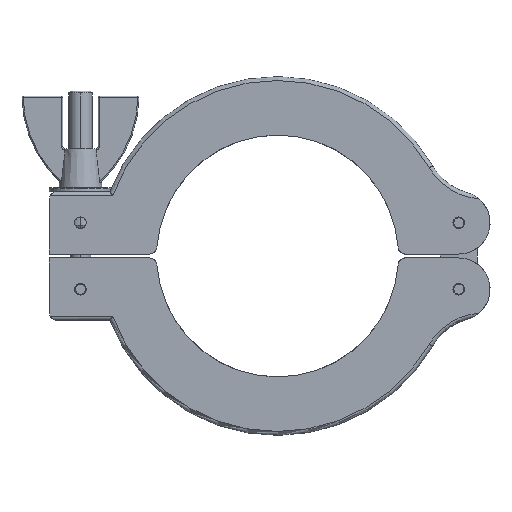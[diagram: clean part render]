
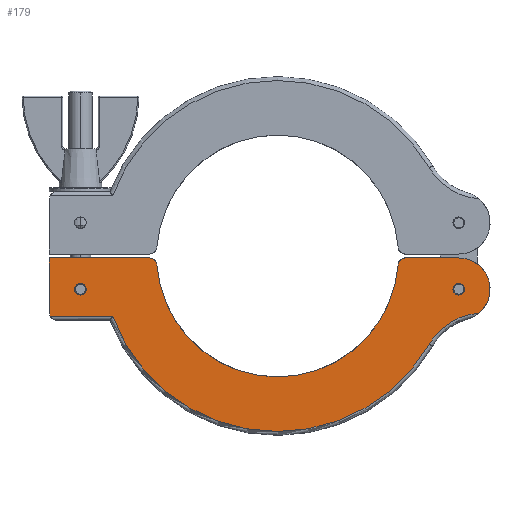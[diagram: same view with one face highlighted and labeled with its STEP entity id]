
A CAD part, front view. The second image highlights one B-rep face of the part: STEP entity #179.
In plain terms, the highlighted planar face has unit normal (0, -1, 0).
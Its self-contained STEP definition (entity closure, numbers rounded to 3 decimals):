
#179=ADVANCED_FACE('18345-2016-03-02_SW0003',(#419,#386,#387),#3535,.T.);
#386=FACE_BOUND('',#3306,.T.);
#387=FACE_BOUND('',#3307,.T.);
#419=FACE_OUTER_BOUND('',#3305,.T.);
#638=B_SPLINE_CURVE_WITH_KNOTS('',3,(#3868,#3869,#3870,#3871,#3872,#3863),
 .UNSPECIFIED.,.F.,.U.,(4,1,1,4),(0.,0.333,0.667,1.),
 .UNSPECIFIED.);
#769=VECTOR('',#9087,13.595);
#770=VECTOR('',#9089,14.);
#771=VECTOR('',#9084,15.986);
#948=LINE('',#3879,#769);
#949=LINE('',#3863,#770);
#950=LINE('',#3888,#771);
#1179=ORIENTED_EDGE('',*,*,#2238,.F.);
#1180=ORIENTED_EDGE('',*,*,#2239,.F.);
#1181=ORIENTED_EDGE('',*,*,#2240,.T.);
#1182=ORIENTED_EDGE('',*,*,#2241,.T.);
#1183=ORIENTED_EDGE('',*,*,#2242,.F.);
#1184=ORIENTED_EDGE('',*,*,#2243,.F.);
#1185=ORIENTED_EDGE('',*,*,#2244,.F.);
#1186=ORIENTED_EDGE('',*,*,#2237,.T.);
#1187=ORIENTED_EDGE('',*,*,#2245,.T.);
#1188=ORIENTED_EDGE('',*,*,#2246,.T.);
#1189=ORIENTED_EDGE('',*,*,#2247,.T.);
#1190=ORIENTED_EDGE('',*,*,#2248,.F.);
#1191=ORIENTED_EDGE('',*,*,#2249,.F.);
#1192=ORIENTED_EDGE('',*,*,#2250,.F.);
#1193=ORIENTED_EDGE('',*,*,#2251,.F.);
#2237=EDGE_CURVE('50',#2985,#2995,#638,.T.);
#2238=EDGE_CURVE('51',#2996,#2997,#2746,.T.);
#2239=EDGE_CURVE('52',#2998,#2996,#2747,.T.);
#2240=EDGE_CURVE('53',#2998,#2999,#2748,.T.);
#2241=EDGE_CURVE('54',#2999,#3000,#948,.T.);
#2242=EDGE_CURVE('55',#3001,#3000,#2749,.T.);
#2243=EDGE_CURVE('56',#3002,#3001,#2750,.T.);
#2244=EDGE_CURVE('57',#2985,#3002,#2751,.T.);
#2245=EDGE_CURVE('58',#2995,#3003,#949,.T.);
#2246=EDGE_CURVE('59',#3003,#3004,#2752,.T.);
#2247=EDGE_CURVE('60',#3004,#2997,#950,.T.);
#2248=EDGE_CURVE('61',#3005,#3006,#2753,.T.);
#2249=EDGE_CURVE('62',#3006,#3005,#2754,.T.);
#2250=EDGE_CURVE('63',#3007,#3008,#2755,.T.);
#2251=EDGE_CURVE('64',#3008,#3007,#2756,.T.);
#2746=CIRCLE('',#8690,45.);
#2747=CIRCLE('',#8691,16.);
#2748=CIRCLE('',#8692,8.);
#2749=CIRCLE('',#8693,2.);
#2750=CIRCLE('',#8694,31.);
#2751=CIRCLE('',#8695,2.);
#2752=CIRCLE('',#8696,2.);
#2753=CIRCLE('',#8697,1.5);
#2754=CIRCLE('',#8698,1.5);
#2755=CIRCLE('',#8699,1.5);
#2756=CIRCLE('',#8700,1.5);
#2985=VERTEX_POINT('31',#3798);
#2995=VERTEX_POINT('41',#3863);
#2996=VERTEX_POINT('42',#3874);
#2997=VERTEX_POINT('43',#3875);
#2998=VERTEX_POINT('44',#3877);
#2999=VERTEX_POINT('45',#3879);
#3000=VERTEX_POINT('46',#3881);
#3001=VERTEX_POINT('47',#3882);
#3002=VERTEX_POINT('48',#3884);
#3003=VERTEX_POINT('49',#3887);
#3004=VERTEX_POINT('50',#3888);
#3005=VERTEX_POINT('51',#3890);
#3006=VERTEX_POINT('52',#3891);
#3007=VERTEX_POINT('53',#3893);
#3008=VERTEX_POINT('54',#3894);
#3305=EDGE_LOOP('',(#1179,#1180,#1181,#1182,#1183,#1184,#1185,#1186,#1187,
#1188,#1189));
#3306=EDGE_LOOP('',(#1190,#1191));
#3307=EDGE_LOOP('',(#1192,#1193));
#3535=PLANE('',#8689);
#3798=CARTESIAN_POINT('',(-32.905,-10.,-0.5));
#3863=CARTESIAN_POINT('',(-58.5,-10.,-0.5));
#3868=CARTESIAN_POINT('',(-32.905,-10.,-0.5));
#3869=CARTESIAN_POINT('',(-35.749,-10.,-0.5));
#3870=CARTESIAN_POINT('',(-41.437,-10.,-0.5));
#3871=CARTESIAN_POINT('',(-49.968,-10.,-0.5));
#3872=CARTESIAN_POINT('',(-55.656,-10.,-0.5));
#3873=CARTESIAN_POINT('',(-59.,-10.,-47.82));
#3874=CARTESIAN_POINT('',(38.914,-10.,-22.599));
#3875=CARTESIAN_POINT('',(-42.246,-10.,-15.5));
#3876=CARTESIAN_POINT('',(0.,-10.,0.));
#3877=CARTESIAN_POINT('',(51.584,-10.,-14.677));
#3878=CARTESIAN_POINT('',(52.75,-10.,-30.635));
#3879=CARTESIAN_POINT('',(46.5,-10.,-0.5));
#3880=CARTESIAN_POINT('',(46.5,-10.,-8.5));
#3881=CARTESIAN_POINT('',(32.905,-10.,-0.5));
#3882=CARTESIAN_POINT('',(30.911,-10.,-2.348));
#3883=CARTESIAN_POINT('',(32.905,-10.,-2.5));
#3884=CARTESIAN_POINT('',(-30.911,-10.,-2.348));
#3885=CARTESIAN_POINT('',(0.,-10.,0.));
#3886=CARTESIAN_POINT('',(-32.905,-10.,-2.5));
#3887=CARTESIAN_POINT('',(-58.5,-10.,-14.5));
#3888=CARTESIAN_POINT('',(-58.232,-10.,-15.5));
#3889=CARTESIAN_POINT('',(-56.5,-10.,-14.5));
#3890=CARTESIAN_POINT('',(48.,-10.,-8.5));
#3891=CARTESIAN_POINT('',(45.,-10.,-8.5));
#3892=CARTESIAN_POINT('',(46.5,-10.,-8.5));
#3893=CARTESIAN_POINT('',(-49.,-10.,-8.5));
#3894=CARTESIAN_POINT('',(-52.,-10.,-8.5));
#3895=CARTESIAN_POINT('',(-50.5,-10.,-8.5));
#8689=AXIS2_PLACEMENT_3D('',#3873,#9090,#9084);
#8690=AXIS2_PLACEMENT_3D('',#3876,#9085,#9107);
#8691=AXIS2_PLACEMENT_3D('',#3878,#9090,#9093);
#8692=AXIS2_PLACEMENT_3D('',#3880,#9090,#9108);
#8693=AXIS2_PLACEMENT_3D('',#3883,#9085,#9109);
#8694=AXIS2_PLACEMENT_3D('',#3885,#9090,#9110);
#8695=AXIS2_PLACEMENT_3D('',#3886,#9085,#9083);
#8696=AXIS2_PLACEMENT_3D('',#3889,#9090,#9087);
#8697=AXIS2_PLACEMENT_3D('',#3892,#9090,#9084);
#8698=AXIS2_PLACEMENT_3D('',#3892,#9090,#9087);
#8699=AXIS2_PLACEMENT_3D('',#3895,#9090,#9084);
#8700=AXIS2_PLACEMENT_3D('',#3895,#9090,#9087);
#9083=DIRECTION('',(0.,0.,1.));
#9084=DIRECTION('',(1.,0.,0.));
#9085=DIRECTION('',(0.,1.,0.));
#9087=DIRECTION('',(-1.,0.,0.));
#9089=DIRECTION('',(0.,0.,-1.));
#9090=DIRECTION('',(0.,-1.,0.));
#9093=DIRECTION('',(-0.073,0.,0.997));
#9107=DIRECTION('',(0.865,0.,-0.502));
#9108=DIRECTION('',(0.635,0.,-0.772));
#9109=DIRECTION('',(-0.997,0.,0.076));
#9110=DIRECTION('',(-0.997,0.,-0.076));
